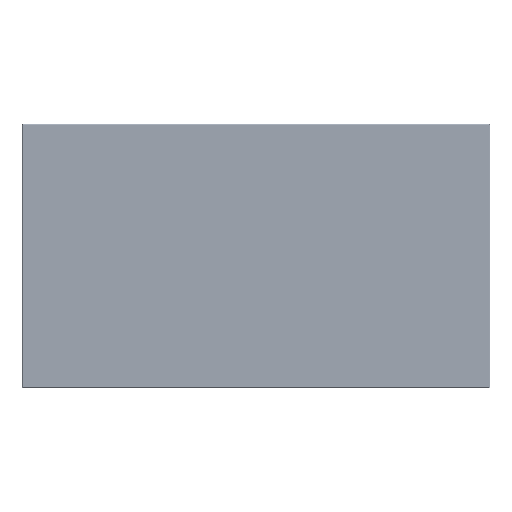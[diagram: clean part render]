
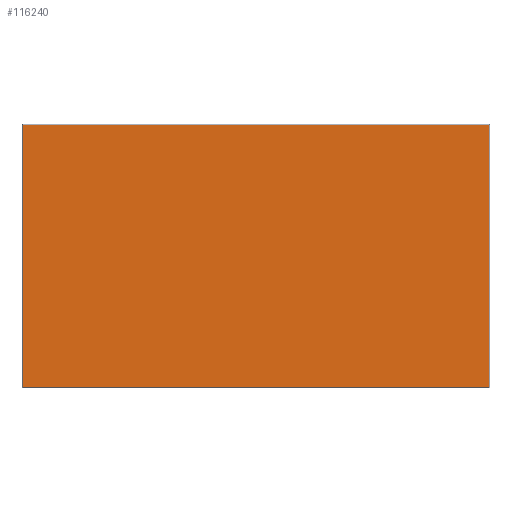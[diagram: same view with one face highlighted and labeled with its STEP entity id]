
A CAD part, front view. The second image highlights one B-rep face of the part: STEP entity #116240.
In plain terms, the highlighted planar face has unit normal (0, -1, 0).
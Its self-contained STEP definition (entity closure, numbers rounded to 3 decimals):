
#66 = LINE ( 'NONE', #159135, #6749 ) ;
#1130 = CARTESIAN_POINT ( 'NONE',  ( 0., -98.142, 341.12 ) ) ;
#3702 = VERTEX_POINT ( 'NONE', #14971 ) ;
#6749 = VECTOR ( 'NONE', #75509, 1000. ) ;
#14971 = CARTESIAN_POINT ( 'NONE',  ( -605.72, -98.142, 341.12 ) ) ;
#29439 = DIRECTION ( 'NONE',  ( -1., 0., 0. ) ) ;
#30884 = DIRECTION ( 'NONE',  ( 0., 0., -1. ) ) ;
#37322 = VECTOR ( 'NONE', #30884, 1000. ) ;
#59900 = DIRECTION ( 'NONE',  ( 0., 0., 1. ) ) ;
#62809 = CARTESIAN_POINT ( 'NONE',  ( 605.72, -98.142, 341.12 ) ) ;
#67801 = CARTESIAN_POINT ( 'NONE',  ( 0., -98.142, 0. ) ) ;
#70252 = DIRECTION ( 'NONE',  ( 1., 0., 0. ) ) ;
#75509 = DIRECTION ( 'NONE',  ( 1., 0., 0. ) ) ;
#75659 = ORIENTED_EDGE ( 'NONE', *, *, #134326, .T. ) ;
#82790 = VECTOR ( 'NONE', #29439, 1000. ) ;
#93629 = VERTEX_POINT ( 'NONE', #97502 ) ;
#93645 = VECTOR ( 'NONE', #59900, 1000. ) ;
#94109 = FACE_OUTER_BOUND ( 'NONE', #112379, .T. ) ;
#97502 = CARTESIAN_POINT ( 'NONE',  ( -605.72, -98.142, -341.12 ) ) ;
#98868 = ORIENTED_EDGE ( 'NONE', *, *, #107955, .T. ) ;
#102914 = EDGE_CURVE ( 'NONE', #93629, #128442, #66, .T. ) ;
#107955 = EDGE_CURVE ( 'NONE', #3702, #93629, #160596, .T. ) ;
#108137 = ORIENTED_EDGE ( 'NONE', *, *, #110905, .T. ) ;
#110905 = EDGE_CURVE ( 'NONE', #128442, #144405, #174995, .T. ) ;
#110923 = PLANE ( 'NONE',  #121839 ) ;
#112379 = EDGE_LOOP ( 'NONE', ( #117800, #108137, #75659, #98868 ) ) ;
#116240 = ADVANCED_FACE ( 'NONE', ( #94109 ), #110923, .F. ) ;
#117800 = ORIENTED_EDGE ( 'NONE', *, *, #102914, .T. ) ;
#121839 = AXIS2_PLACEMENT_3D ( 'NONE', #67801, #153192, #70252 ) ;
#128442 = VERTEX_POINT ( 'NONE', #147813 ) ;
#134326 = EDGE_CURVE ( 'NONE', #144405, #3702, #179525, .T. ) ;
#144405 = VERTEX_POINT ( 'NONE', #62809 ) ;
#144724 = CARTESIAN_POINT ( 'NONE',  ( -605.72, -98.142, 0. ) ) ;
#144801 = CARTESIAN_POINT ( 'NONE',  ( 605.72, -98.142, 0. ) ) ;
#147813 = CARTESIAN_POINT ( 'NONE',  ( 605.72, -98.142, -341.12 ) ) ;
#153192 = DIRECTION ( 'NONE',  ( 0., 1., 0. ) ) ;
#159135 = CARTESIAN_POINT ( 'NONE',  ( 0., -98.142, -341.12 ) ) ;
#160596 = LINE ( 'NONE', #144724, #37322 ) ;
#174995 = LINE ( 'NONE', #144801, #93645 ) ;
#179525 = LINE ( 'NONE', #1130, #82790 ) ;
